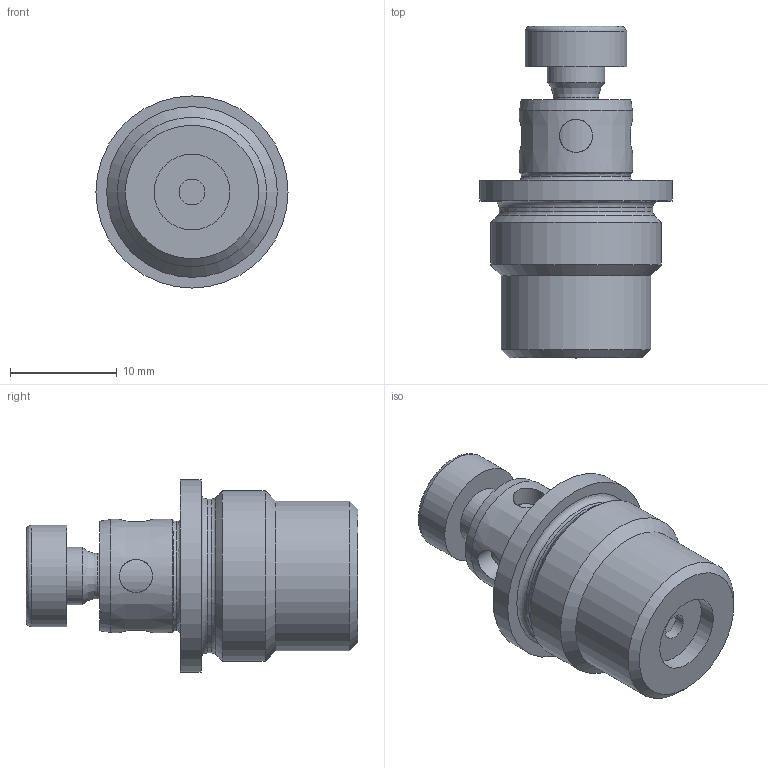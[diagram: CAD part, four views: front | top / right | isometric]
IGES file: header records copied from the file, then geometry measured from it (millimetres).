
Start section: Data from Parasolid IGES Translator 20.0.26, Copyright(c) 2006 Siemens P LM Software. All Rights Reserved.
Global section: file name: AMF559090.igs; native system: By Siemens PLM Incorporated; preprocessor: XPlus GENERIC/IGES 20.0.26; author: Noname; organization: Noname; date: 20190117.081510; units: millimetre
Bounding box: 18 x 31.1 x 18 mm (x, y, z)
Surface area: 2685.7 mm2 (no closed solid volume)
Topology: 0 solids, 0 shells, 48 faces, 192 edges, 152 vertices
Faces by surface type: revolution 35, extrusion 13
